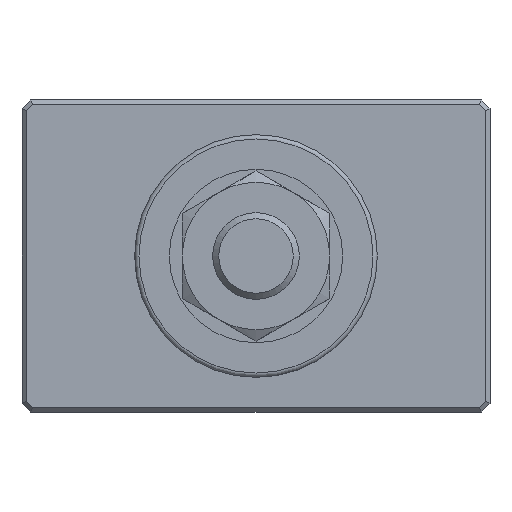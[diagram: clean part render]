
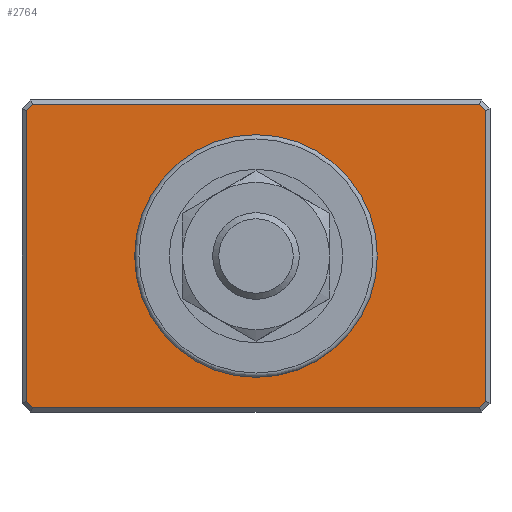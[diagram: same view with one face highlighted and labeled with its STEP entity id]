
A CAD part, front view. The second image highlights one B-rep face of the part: STEP entity #2764.
In plain terms, the highlighted planar face has unit normal (0, -1, 0).
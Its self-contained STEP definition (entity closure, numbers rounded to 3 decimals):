
#2453=CARTESIAN_POINT('',(26.5,-17.,16.793));
#2454=VERTEX_POINT('',#2453);
#2461=CARTESIAN_POINT('',(26.5,-17.,-16.793));
#2462=VERTEX_POINT('',#2461);
#2463=CARTESIAN_POINT('',(26.5,-17.,16.793));
#2464=DIRECTION('',(0.0,0.0,-1.0));
#2465=VECTOR('',#2464,33.586);
#2466=LINE('',#2463,#2465);
#2467=EDGE_CURVE('',#2454,#2462,#2466,.T.);
#2483=CARTESIAN_POINT('',(25.793,-17.,17.5));
#2484=VERTEX_POINT('',#2483);
#2485=CARTESIAN_POINT('',(25.793,-17.,17.5));
#2486=DIRECTION('',(0.707,0.0,-0.707));
#2487=VECTOR('',#2486,1.);
#2488=LINE('',#2485,#2487);
#2489=EDGE_CURVE('',#2484,#2454,#2488,.T.);
#2507=CARTESIAN_POINT('',(-25.793,-17.,17.5));
#2508=VERTEX_POINT('',#2507);
#2509=CARTESIAN_POINT('',(-25.793,-17.,17.5));
#2510=DIRECTION('',(1.0,0.0,0.0));
#2511=VECTOR('',#2510,51.586);
#2512=LINE('',#2509,#2511);
#2513=EDGE_CURVE('',#2508,#2484,#2512,.T.);
#2531=CARTESIAN_POINT('',(-25.793,-17.,-17.5));
#2532=VERTEX_POINT('',#2531);
#2533=CARTESIAN_POINT('',(-26.5,-17.,-16.793));
#2534=VERTEX_POINT('',#2533);
#2535=CARTESIAN_POINT('',(-25.793,-17.,-17.5));
#2536=DIRECTION('',(-0.707,0.0,0.707));
#2537=VECTOR('',#2536,1.);
#2538=LINE('',#2535,#2537);
#2539=EDGE_CURVE('',#2532,#2534,#2538,.T.);
#2578=CARTESIAN_POINT('',(-26.5,-17.,16.793));
#2579=VERTEX_POINT('',#2578);
#2580=CARTESIAN_POINT('',(-26.5,-17.,-16.793));
#2581=DIRECTION('',(0.0,0.0,1.0));
#2582=VECTOR('',#2581,33.586);
#2583=LINE('',#2580,#2582);
#2584=EDGE_CURVE('',#2534,#2579,#2583,.T.);
#2600=CARTESIAN_POINT('',(-26.5,-17.,16.793));
#2601=DIRECTION('',(0.707,0.0,0.707));
#2602=VECTOR('',#2601,1.);
#2603=LINE('',#2600,#2602);
#2604=EDGE_CURVE('',#2579,#2508,#2603,.T.);
#2617=CARTESIAN_POINT('',(25.793,-17.,-17.5));
#2618=VERTEX_POINT('',#2617);
#2619=CARTESIAN_POINT('',(25.793,-17.,-17.5));
#2620=DIRECTION('',(-1.0,0.0,0.0));
#2621=VECTOR('',#2620,51.586);
#2622=LINE('',#2619,#2621);
#2623=EDGE_CURVE('',#2618,#2532,#2622,.T.);
#2648=CARTESIAN_POINT('',(26.5,-17.,-16.793));
#2649=DIRECTION('',(-0.707,0.0,-0.707));
#2650=VECTOR('',#2649,1.);
#2651=LINE('',#2648,#2650);
#2652=EDGE_CURVE('',#2462,#2618,#2651,.T.);
#2738=CARTESIAN_POINT('',(0.0,-17.,-18.));
#2739=DIRECTION('',(0.0,-1.0,0.0));
#2740=DIRECTION('',(0.0,0.0,-1.0));
#2741=AXIS2_PLACEMENT_3D('',#2738,#2739,#2740);
#2742=PLANE('',#2741);
#2743=ORIENTED_EDGE('',*,*,#2539,.F.);
#2744=ORIENTED_EDGE('',*,*,#2623,.F.);
#2745=ORIENTED_EDGE('',*,*,#2652,.F.);
#2746=ORIENTED_EDGE('',*,*,#2467,.F.);
#2747=ORIENTED_EDGE('',*,*,#2489,.F.);
#2748=ORIENTED_EDGE('',*,*,#2513,.F.);
#2749=ORIENTED_EDGE('',*,*,#2604,.F.);
#2750=ORIENTED_EDGE('',*,*,#2584,.F.);
#2751=EDGE_LOOP('',(#2743,#2744,#2745,#2746,#2747,#2748,#2749,#2750));
#2752=FACE_OUTER_BOUND('',#2751,.T.);
#2753=CARTESIAN_POINT('',(0.0,-17.,14.));
#2754=VERTEX_POINT('',#2753);
#2755=CARTESIAN_POINT('',(0.0,-17.,0.0));
#2756=DIRECTION('',(0.0,1.0,0.0));
#2757=DIRECTION('',(0.0,0.0,1.0));
#2758=AXIS2_PLACEMENT_3D('',#2755,#2756,#2757);
#2759=CIRCLE('',#2758,14.);
#2760=EDGE_CURVE('',#2754,#2754,#2759,.T.);
#2761=ORIENTED_EDGE('',*,*,#2760,.T.);
#2762=EDGE_LOOP('',(#2761));
#2763=FACE_BOUND('',#2762,.T.);
#2764=ADVANCED_FACE('',(#2752,#2763),#2742,.T.);
